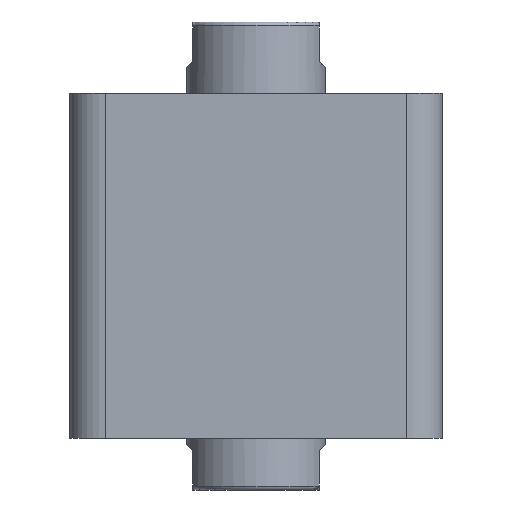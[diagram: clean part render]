
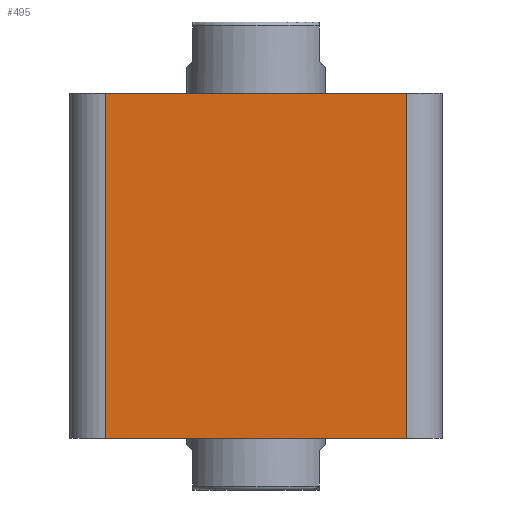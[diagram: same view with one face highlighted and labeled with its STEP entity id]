
A CAD part, front view. The second image highlights one B-rep face of the part: STEP entity #495.
In plain terms, the highlighted planar face has unit normal (0, -1, 0).
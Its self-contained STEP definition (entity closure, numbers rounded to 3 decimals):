
#127 = EDGE_CURVE ( 'NONE', #1334, #1359, #2616, .T. ) ;
#128 = EDGE_CURVE ( 'NONE', #1334, #1430, #2618, .T. ) ;
#129 = EDGE_CURVE ( 'NONE', #1430, #1417, #2610, .T. ) ;
#130 = EDGE_CURVE ( 'NONE', #1417, #1359, #2622, .T. ) ;
#495 = ADVANCED_FACE ( 'NONE', ( #2948 ), #534, .F. ) ;
#531 = CARTESIAN_POINT ( 'NONE',  ( -47., -47., 87. ) ) ;
#534 = PLANE ( 'NONE',  #2294 ) ;
#536 = DIRECTION ( 'NONE',  ( 0., 1., 0. ) ) ;
#537 = DIRECTION ( 'NONE',  ( 0., 0., 1. ) ) ;
#570 = CARTESIAN_POINT ( 'NONE',  ( -38., -47., 87. ) ) ;
#593 = CARTESIAN_POINT ( 'NONE',  ( 38., -47., 87. ) ) ;
#651 = CARTESIAN_POINT ( 'NONE',  ( 38., -47., 0. ) ) ;
#664 = CARTESIAN_POINT ( 'NONE',  ( -38., -47., 0. ) ) ;
#984 = CARTESIAN_POINT ( 'NONE',  ( -47., -47., 0. ) ) ;
#994 = CARTESIAN_POINT ( 'NONE',  ( -47., -47., 87. ) ) ;
#995 = DIRECTION ( 'NONE',  ( 1., 0., 0. ) ) ;
#996 = CARTESIAN_POINT ( 'NONE',  ( -38., -47., 87. ) ) ;
#997 = DIRECTION ( 'NONE',  ( 0., 0., -1. ) ) ;
#998 = DIRECTION ( 'NONE',  ( 1., 0., 0. ) ) ;
#999 = CARTESIAN_POINT ( 'NONE',  ( 38., -47., 87. ) ) ;
#1000 = DIRECTION ( 'NONE',  ( 0., 0., 1. ) ) ;
#1228 = ORIENTED_EDGE ( 'NONE', *, *, #129, .T. ) ;
#1334 = VERTEX_POINT ( 'NONE', #570 ) ;
#1359 = VERTEX_POINT ( 'NONE', #593 ) ;
#1417 = VERTEX_POINT ( 'NONE', #651 ) ;
#1430 = VERTEX_POINT ( 'NONE', #664 ) ;
#2294 = AXIS2_PLACEMENT_3D ( 'NONE', #531, #536, #537 ) ;
#2610 = LINE ( 'NONE', #984, #2623 ) ;
#2616 = LINE ( 'NONE', #994, #2619 ) ;
#2618 = LINE ( 'NONE', #996, #2621 ) ;
#2619 = VECTOR ( 'NONE', #995, 1000. ) ;
#2621 = VECTOR ( 'NONE', #997, 1000. ) ;
#2622 = LINE ( 'NONE', #999, #2625 ) ;
#2623 = VECTOR ( 'NONE', #998, 1000. ) ;
#2625 = VECTOR ( 'NONE', #1000, 1000. ) ;
#2948 = FACE_OUTER_BOUND ( 'NONE', #2970, .T. ) ;
#2970 = EDGE_LOOP ( 'NONE', ( #3096, #3095, #1228, #3102 ) ) ;
#3095 = ORIENTED_EDGE ( 'NONE', *, *, #128, .T. ) ;
#3096 = ORIENTED_EDGE ( 'NONE', *, *, #127, .F. ) ;
#3102 = ORIENTED_EDGE ( 'NONE', *, *, #130, .T. ) ;
